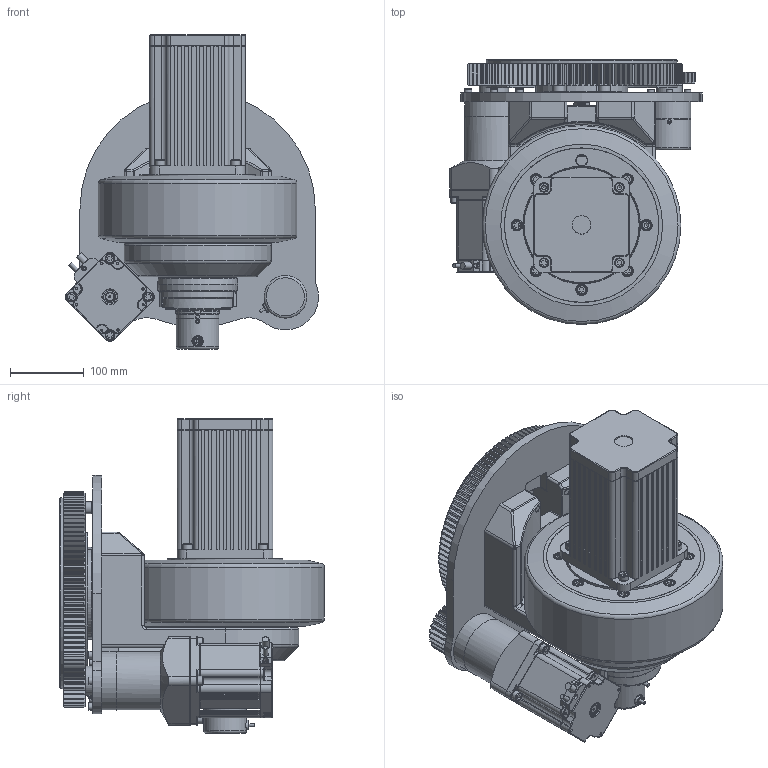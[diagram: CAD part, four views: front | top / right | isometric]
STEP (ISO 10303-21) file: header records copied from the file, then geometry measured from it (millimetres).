
FILE_DESCRIPTION (( 'STEP AP214' ), '1' );
FILE_NAME ('拏宒嗆謫ZLW-360-30008-5008.STEP', '2019-05-14T01:43:10', ( '' ), ( '' ), 'SwSTEP 2.0', 'SolidWorks 2016', '' );
FILE_SCHEMA (( 'AUTOMOTIVE_DESIGN' ));
Length unit declared in the file: millimetre
Products named in the file (1): 拏宒嗆謫ZLW-360-30008-5008
Bounding box: 343.97 x 360 x 427.5 mm (x, y, z)
Surface area: 1119265 mm2 (no closed solid volume)
Topology: 0 solids, 143 shells, 2202 faces, 7021 edges, 4825 vertices
Faces by surface type: cylinder 1001, plane 694, cone 344, torus 100, bspline 58, sphere 5
Full cylindrical faces by diameter (mm): 3 x6, 3.3 x5, 4 x3, 4.5 x2, 4.7 x4, 5 x5, 5.1 x2, 5.54 x4, 6 x2, 6.5 x1, 8 x5, 8.5 x21, 9.43 x1, 9.5 x1, 10 x7, 13 x10, 15 x7, 16 x5, 16.7 x1, 18 x8, 19.8 x1, 20 x6, 25 x2, 35 x1, 38 x2, 40 x2, 42 x1, 55 x1, 58 x4, 60 x2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
Entity records: 113578 total; most frequent: CARTESIAN_POINT 29781, DIRECTION 12820, ORIENTED_EDGE 10862, EDGE_CURVE 6665, AXIS2_PLACEMENT_3D 4923, VERTEX_POINT 4756, VECTOR 2974, LINE 2974
